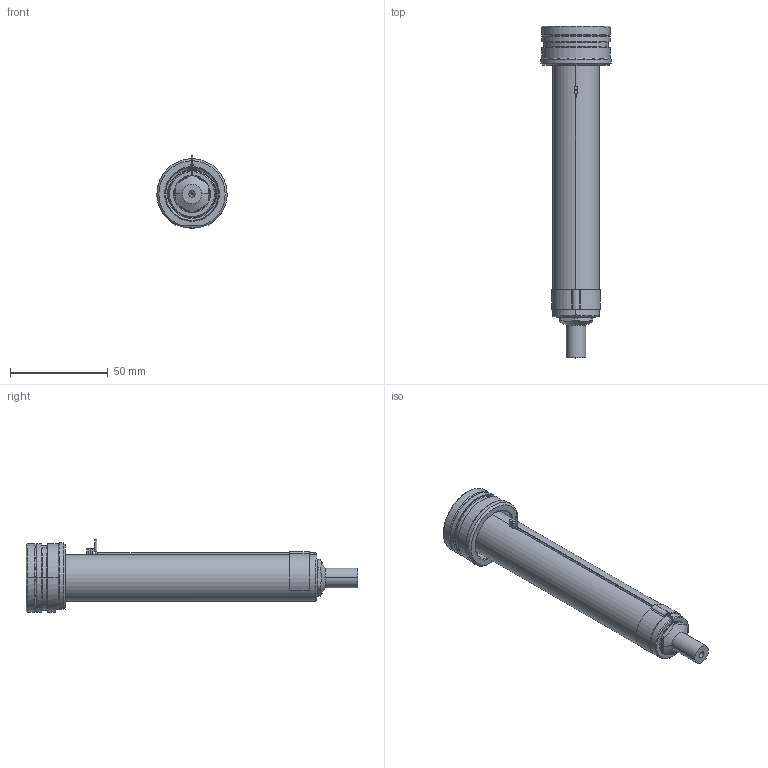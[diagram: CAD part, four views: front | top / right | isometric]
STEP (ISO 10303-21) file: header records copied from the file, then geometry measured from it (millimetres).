
FILE_DESCRIPTION((''),'2;1');
FILE_NAME('EO06_PG-FBE_STD_140_SW','2024-02-19T11:50:46',('sundharh'),(''),'CREO PARAMETRIC BY PTC INC, 2023154','CREO PARAMETRIC BY PTC INC, 2023154','');
FILE_SCHEMA(('CONFIG_CONTROL_DESIGN'));
Length unit declared in the file: millimetre
Products named in the file (1): EO06_PG-FBE_STD_140_SW
Bounding box: 35.93 x 170 x 37 mm (x, y, z)
Volume: 73826.2 mm3; surface area: 21465.2 mm2
Topology: 2 solids, 2 shells, 211 faces, 568 edges, 347 vertices
Faces by surface type: cylinder 85, plane 54, cone 42, torus 21, bspline 6, sphere 3
Entity records: 7646 total; most frequent: CARTESIAN_POINT 2283, DIRECTION 1181, ORIENTED_EDGE 1116, EDGE_CURVE 558, AXIS2_PLACEMENT_3D 496, VERTEX_POINT 347, CIRCLE 291, EDGE_LOOP 227
